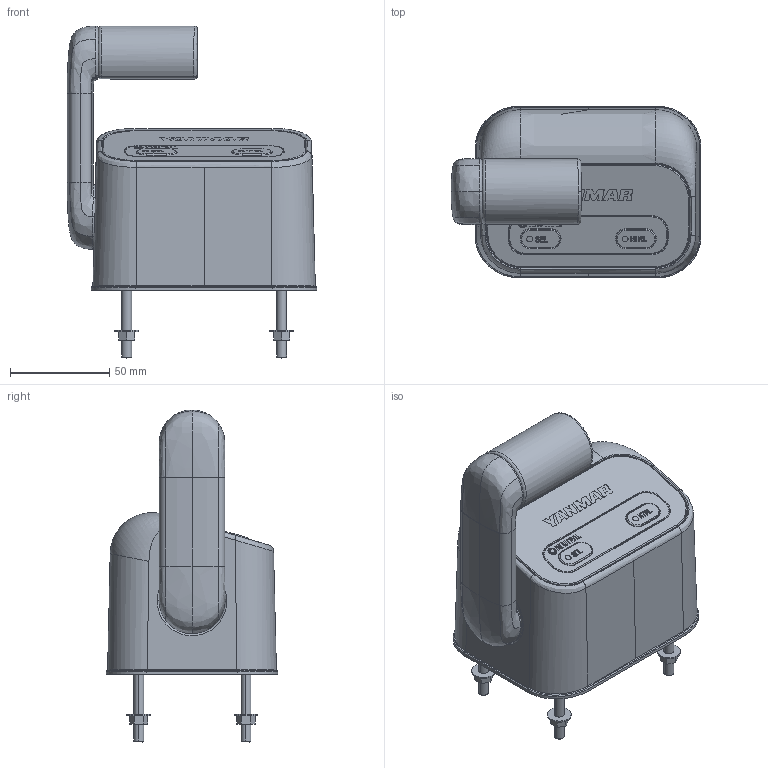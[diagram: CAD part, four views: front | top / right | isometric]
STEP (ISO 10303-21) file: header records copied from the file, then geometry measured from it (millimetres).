
FILE_DESCRIPTION((''),'2;1');
FILE_NAME('164350-41110_ASM','2024-04-22T10:03:38',('IB46307'),(''),'CREO PARAMETRIC BY PTC INC, 2022024','CREO PARAMETRIC BY PTC INC, 2022024','');
FILE_SCHEMA(('CONFIG_CONTROL_DESIGN'));
Products named in the file (12): 164350-41110_BODY; 164350-41110_LEVER; 164350-41110_RUBBER; 164350-41110_LEVER_ASM; 164350-41110_KEYPLATE_HOLDER; 164350-411XX_KEYPLATE_S; 164350-411XX_BUTTON_S; 164350-41110_GASKET_TM; 164350-411XX_LOGO; 164350-41110_THREAD; 26366-050002; 164350-41110_ASM
Assembly tree (17 placements, depth 3):
  164350-41110_ASM
    164350-41110_BODY
    164350-41110_LEVER_ASM
      164350-41110_LEVER
      164350-41110_RUBBER
    164350-41110_KEYPLATE_HOLDER
    164350-411XX_KEYPLATE_S
    164350-411XX_BUTTON_S
    164350-41110_GASKET_TM
    164350-411XX_LOGO
    164350-41110_THREAD  x4
    26366-050002  x4
Bounding box: 125.81 x 86.62 x 167.2 mm (x, y, z)
Volume: 83736.4 mm3; surface area: 147753.5 mm2
Topology: 19 solids, 129 shells, 1674 faces, 6797 edges, 5271 vertices
Faces by surface type: plane 575, bspline 373, cylinder 335, extrusion 150, torus 145, cone 72, sphere 24
Entity records: 99748 total; most frequent: CARTESIAN_POINT 53448, ORIENTED_EDGE 10292, EDGE_CURVE 6551, DIRECTION 6405, VERTEX_POINT 5145, B_SPLINE_CURVE_WITH_KNOTS 3539, VECTOR 2401, LINE 2251
